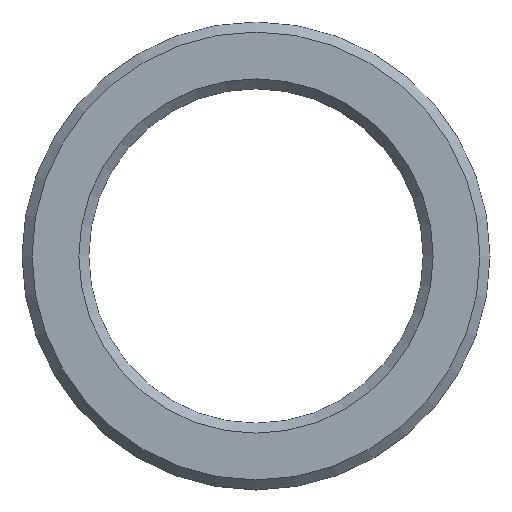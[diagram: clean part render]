
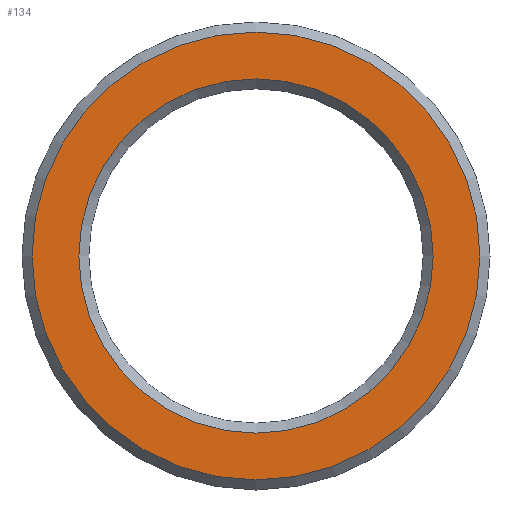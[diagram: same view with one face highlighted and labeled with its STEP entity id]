
A CAD part, left-side view. The second image highlights one B-rep face of the part: STEP entity #134.
In plain terms, the highlighted planar face has unit normal (-1, 0, 0).
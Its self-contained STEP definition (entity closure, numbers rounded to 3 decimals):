
#17=FACE_BOUND('',#31,.T.);
#19=PLANE('',#168);
#22=FACE_OUTER_BOUND('',#30,.T.);
#30=EDGE_LOOP('',(#98));
#31=EDGE_LOOP('',(#99));
#51=CIRCLE('',#165,5.3);
#54=CIRCLE('',#169,6.7);
#63=VERTEX_POINT('',#234);
#66=VERTEX_POINT('',#242);
#75=EDGE_CURVE('',#63,#63,#51,.T.);
#79=EDGE_CURVE('',#66,#66,#54,.T.);
#98=ORIENTED_EDGE('',*,*,#79,.F.);
#99=ORIENTED_EDGE('',*,*,#75,.F.);
#134=ADVANCED_FACE('',(#22,#17),#19,.T.);
#165=AXIS2_PLACEMENT_3D('',#235,#188,#189);
#168=AXIS2_PLACEMENT_3D('',#241,#195,#196);
#169=AXIS2_PLACEMENT_3D('',#243,#197,#198);
#188=DIRECTION('center_axis',(-1.,0.,0.));
#189=DIRECTION('ref_axis',(0.,-1.,0.));
#195=DIRECTION('center_axis',(-1.,0.,0.));
#196=DIRECTION('ref_axis',(0.,0.,1.));
#197=DIRECTION('center_axis',(1.,0.,0.));
#198=DIRECTION('ref_axis',(0.,-1.,0.));
#234=CARTESIAN_POINT('',(0.,5.3,0.));
#235=CARTESIAN_POINT('Origin',(0.,0.,0.));
#241=CARTESIAN_POINT('Origin',(0.,7.,0.));
#242=CARTESIAN_POINT('',(0.,6.7,0.));
#243=CARTESIAN_POINT('Origin',(0.,0.,0.));
